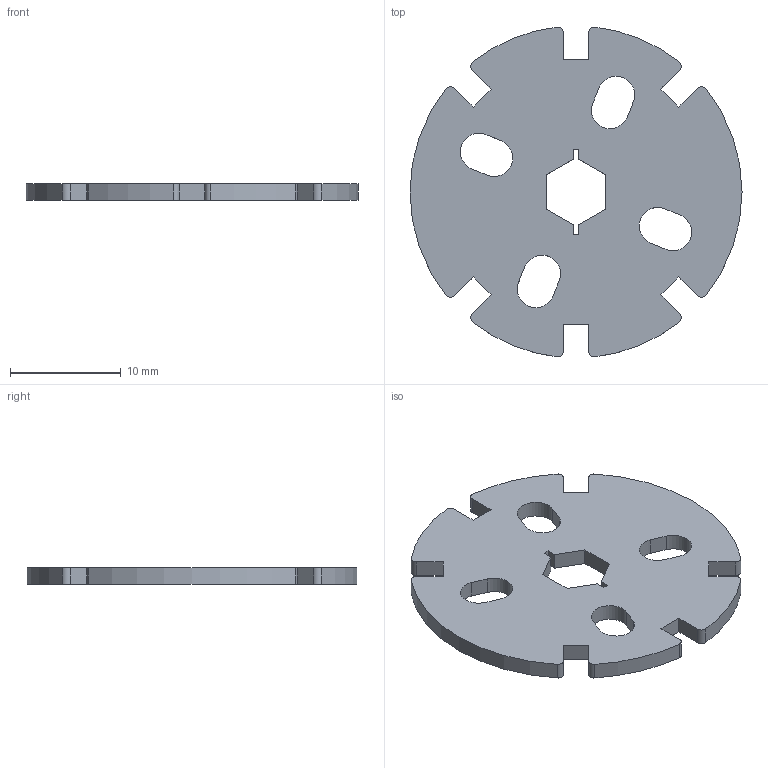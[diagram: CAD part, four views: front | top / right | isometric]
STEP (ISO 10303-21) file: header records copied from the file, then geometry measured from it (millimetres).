
FILE_DESCRIPTION((''),'2;1');
FILE_NAME('D:\Universal Air\Development\R10\CAD\V5\Plate.stp','2013-06-02T10:25:11',('Henry'),(''),'Autodesk Inventor 2013','Autodesk Inventor 2013','');
FILE_SCHEMA(('AUTOMOTIVE_DESIGN { 1 0 10303 214 1 1 1 1 }'));
Length unit declared in the file: millimetre
Products named in the file (1): Plate
Bounding box: 30 x 29.81 x 1.5 mm (x, y, z)
Volume: 875.2 mm3; surface area: 1470.7 mm2
Topology: 1 solids, 1 shells, 66 faces, 192 edges, 128 vertices
Faces by surface type: plane 40, cylinder 26
Entity records: 2234 total; most frequent: CARTESIAN_POINT 387, ORIENTED_EDGE 384, DIRECTION 378, EDGE_CURVE 192, VECTOR 140, LINE 140, VERTEX_POINT 128, AXIS2_PLACEMENT_3D 119
